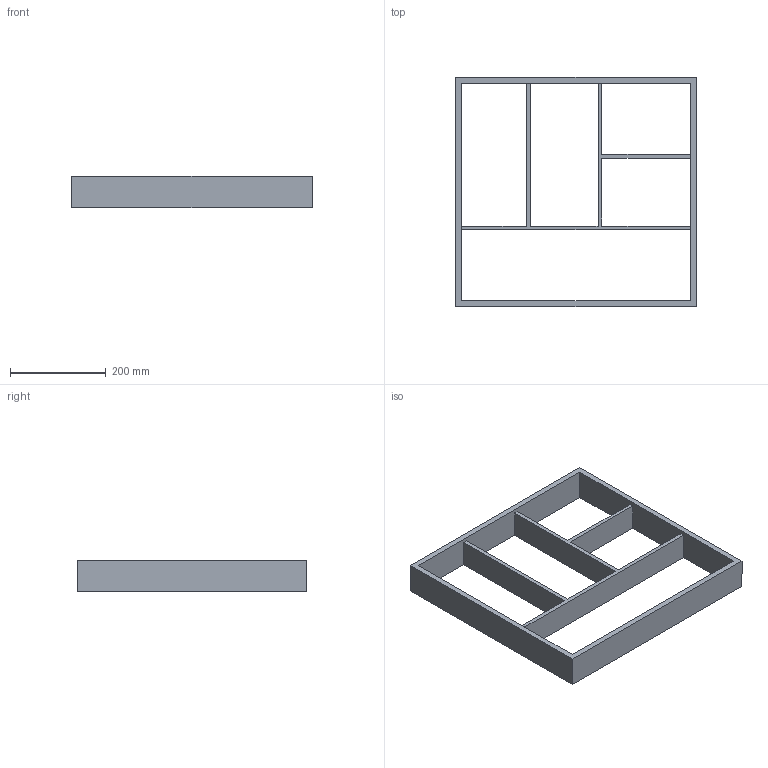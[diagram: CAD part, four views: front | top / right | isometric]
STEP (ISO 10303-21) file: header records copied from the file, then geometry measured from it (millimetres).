
FILE_DESCRIPTION (( 'STEP AP214' ), '1' );
FILE_NAME ('Vario Multi NL500_B600_19 mm_Alu.step', '2010-10-07T06:24:33', ( 'grass' ), ( '' ), 'SwSTEP 2.0', 'SolidWorks 2010', '' );
FILE_SCHEMA (( 'AUTOMOTIVE_DESIGN' ));
Length unit declared in the file: millimetre
Products named in the file (1): Vario Multi NL500_B600_19 mm_Alu
Bounding box: 502 x 479 x 65 mm (x, y, z)
Volume: 2067753.6 mm3; surface area: 454986 mm2
Topology: 1 solids, 1 shells, 22 faces, 72 edges, 48 vertices
Faces by surface type: plane 22
Entity records: 830 total; most frequent: ORIENTED_EDGE 144, CARTESIAN_POINT 143, DIRECTION 118, EDGE_CURVE 72, VECTOR 72, LINE 72, VERTEX_POINT 48, EDGE_LOOP 28
